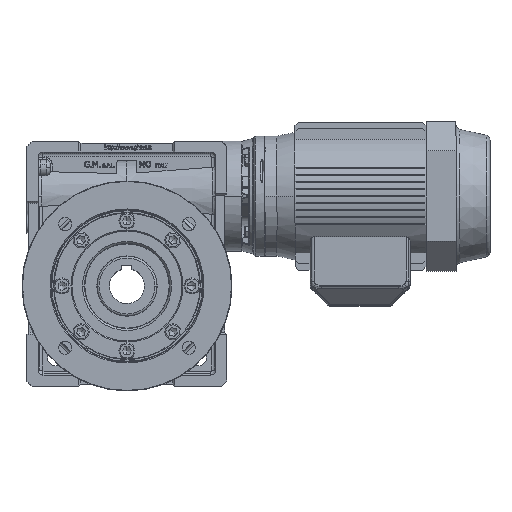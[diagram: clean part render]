
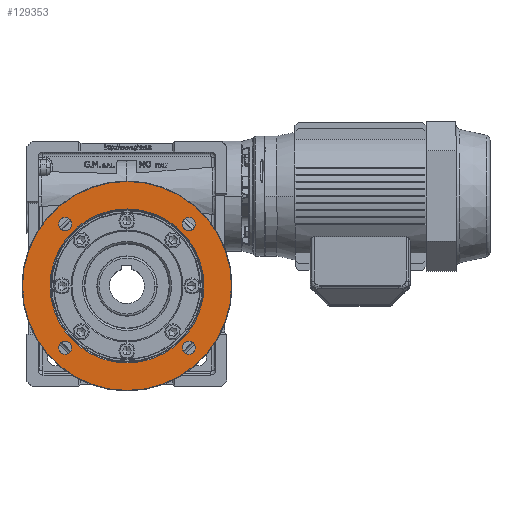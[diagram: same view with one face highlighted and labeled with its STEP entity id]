
A CAD part, top view. The second image highlights one B-rep face of the part: STEP entity #129353.
In plain terms, the highlighted planar face has unit normal (0, 0, 1) as drawn and (0, 0, -1) by its records, which use the part's own axes.
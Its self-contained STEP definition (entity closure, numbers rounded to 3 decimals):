
#128468=CARTESIAN_POINT('',(68.372,-61.872,0.0));
#128469=VERTEX_POINT('',#128468);
#128494=CARTESIAN_POINT('',(55.372,-61.872,0.0));
#128495=VERTEX_POINT('',#128494);
#128502=CARTESIAN_POINT('',(61.872,-61.872,0.0));
#128503=DIRECTION('',(0.0,0.0,1.0));
#128504=DIRECTION('',(1.0,0.0,0.0));
#128505=AXIS2_PLACEMENT_3D('',#128502,#128503,#128504);
#128506=CIRCLE('',#128505,6.5);
#128507=EDGE_CURVE('',#128469,#128495,#128506,.T.);
#128519=CARTESIAN_POINT('',(-61.872,-68.372,0.0));
#128520=VERTEX_POINT('',#128519);
#128545=CARTESIAN_POINT('',(-61.872,-55.372,0.0));
#128546=VERTEX_POINT('',#128545);
#128553=CARTESIAN_POINT('',(-61.872,-61.872,0.0));
#128554=DIRECTION('',(0.0,0.0,1.0));
#128555=DIRECTION('',(0.0,-1.0,0.0));
#128556=AXIS2_PLACEMENT_3D('',#128553,#128554,#128555);
#128557=CIRCLE('',#128556,6.5);
#128558=EDGE_CURVE('',#128520,#128546,#128557,.T.);
#128570=CARTESIAN_POINT('',(61.872,68.372,0.0));
#128571=VERTEX_POINT('',#128570);
#128587=CARTESIAN_POINT('',(61.872,55.372,0.0));
#128588=VERTEX_POINT('',#128587);
#128595=CARTESIAN_POINT('',(61.872,61.872,0.0));
#128596=DIRECTION('',(0.0,0.0,1.0));
#128597=DIRECTION('',(0.0,1.0,0.0));
#128598=AXIS2_PLACEMENT_3D('',#128595,#128596,#128597);
#128599=CIRCLE('',#128598,6.5);
#128600=EDGE_CURVE('',#128571,#128588,#128599,.T.);
#128612=CARTESIAN_POINT('',(-68.372,61.872,0.0));
#128613=VERTEX_POINT('',#128612);
#128638=CARTESIAN_POINT('',(-55.372,61.872,0.0));
#128639=VERTEX_POINT('',#128638);
#128646=CARTESIAN_POINT('',(-61.872,61.872,0.0));
#128647=DIRECTION('',(0.0,0.0,1.0));
#128648=DIRECTION('',(-1.0,0.0,0.0));
#128649=AXIS2_PLACEMENT_3D('',#128646,#128647,#128648);
#128650=CIRCLE('',#128649,6.5);
#128651=EDGE_CURVE('',#128613,#128639,#128650,.T.);
#129173=CARTESIAN_POINT('',(77.0,0.,0.0));
#129174=VERTEX_POINT('',#129173);
#129182=CARTESIAN_POINT('',(-77.0,0.,0.0));
#129183=VERTEX_POINT('',#129182);
#129190=CARTESIAN_POINT('',(0.0,0.0,0.0));
#129191=DIRECTION('',(0.0,0.0,-1.0));
#129192=DIRECTION('',(1.0,0.0,0.0));
#129193=AXIS2_PLACEMENT_3D('',#129190,#129191,#129192);
#129194=CIRCLE('',#129193,77.0);
#129195=EDGE_CURVE('',#129183,#129174,#129194,.T.);
#129243=CARTESIAN_POINT('',(-104.5,0.,0.0));
#129244=VERTEX_POINT('',#129243);
#129258=CARTESIAN_POINT('',(104.5,0.,0.0));
#129259=VERTEX_POINT('',#129258);
#129266=CARTESIAN_POINT('',(0.0,0.0,0.0));
#129267=DIRECTION('',(0.0,0.0,1.0));
#129268=DIRECTION('',(-1.0,0.0,0.0));
#129269=AXIS2_PLACEMENT_3D('',#129266,#129267,#129268);
#129270=CIRCLE('',#129269,104.5);
#129271=EDGE_CURVE('',#129259,#129244,#129270,.T.);
#129282=CARTESIAN_POINT('',(0.0,0.0,0.0));
#129283=DIRECTION('',(0.0,0.0,1.0));
#129284=DIRECTION('',(-1.0,0.0,0.0));
#129285=AXIS2_PLACEMENT_3D('',#129282,#129283,#129284);
#129286=CIRCLE('',#129285,104.5);
#129287=EDGE_CURVE('',#129244,#129259,#129286,.T.);
#129294=CARTESIAN_POINT('',(0.0,0.0,0.0));
#129295=DIRECTION('',(0.0,0.0,-1.0));
#129296=DIRECTION('',(-1.0,0.0,0.0));
#129297=AXIS2_PLACEMENT_3D('',#129294,#129295,#129296);
#129298=PLANE('',#129297);
#129299=ORIENTED_EDGE('',*,*,#129271,.F.);
#129300=ORIENTED_EDGE('',*,*,#129287,.F.);
#129301=EDGE_LOOP('',(#129299,#129300));
#129302=FACE_OUTER_BOUND('',#129301,.T.);
#129303=ORIENTED_EDGE('',*,*,#129195,.F.);
#129304=CARTESIAN_POINT('',(0.0,0.0,0.0));
#129305=DIRECTION('',(0.0,0.0,-1.0));
#129306=DIRECTION('',(1.0,0.0,0.0));
#129307=AXIS2_PLACEMENT_3D('',#129304,#129305,#129306);
#129308=CIRCLE('',#129307,77.0);
#129309=EDGE_CURVE('',#129174,#129183,#129308,.T.);
#129310=ORIENTED_EDGE('',*,*,#129309,.F.);
#129311=EDGE_LOOP('',(#129303,#129310));
#129312=FACE_BOUND('',#129311,.T.);
#129313=CARTESIAN_POINT('',(-61.872,61.872,0.0));
#129314=DIRECTION('',(0.0,0.0,1.0));
#129315=DIRECTION('',(-1.0,0.0,0.0));
#129316=AXIS2_PLACEMENT_3D('',#129313,#129314,#129315);
#129317=CIRCLE('',#129316,6.5);
#129318=EDGE_CURVE('',#128639,#128613,#129317,.T.);
#129319=ORIENTED_EDGE('',*,*,#129318,.T.);
#129320=ORIENTED_EDGE('',*,*,#128651,.T.);
#129321=EDGE_LOOP('',(#129319,#129320));
#129322=FACE_BOUND('',#129321,.T.);
#129323=CARTESIAN_POINT('',(61.872,61.872,0.0));
#129324=DIRECTION('',(0.0,0.0,1.0));
#129325=DIRECTION('',(0.0,1.0,0.0));
#129326=AXIS2_PLACEMENT_3D('',#129323,#129324,#129325);
#129327=CIRCLE('',#129326,6.5);
#129328=EDGE_CURVE('',#128588,#128571,#129327,.T.);
#129329=ORIENTED_EDGE('',*,*,#129328,.T.);
#129330=ORIENTED_EDGE('',*,*,#128600,.T.);
#129331=EDGE_LOOP('',(#129329,#129330));
#129332=FACE_BOUND('',#129331,.T.);
#129333=CARTESIAN_POINT('',(-61.872,-61.872,0.0));
#129334=DIRECTION('',(0.0,0.0,1.0));
#129335=DIRECTION('',(0.0,-1.0,0.0));
#129336=AXIS2_PLACEMENT_3D('',#129333,#129334,#129335);
#129337=CIRCLE('',#129336,6.5);
#129338=EDGE_CURVE('',#128546,#128520,#129337,.T.);
#129339=ORIENTED_EDGE('',*,*,#129338,.T.);
#129340=ORIENTED_EDGE('',*,*,#128558,.T.);
#129341=EDGE_LOOP('',(#129339,#129340));
#129342=FACE_BOUND('',#129341,.T.);
#129343=CARTESIAN_POINT('',(61.872,-61.872,0.0));
#129344=DIRECTION('',(0.0,0.0,1.0));
#129345=DIRECTION('',(1.0,0.0,0.0));
#129346=AXIS2_PLACEMENT_3D('',#129343,#129344,#129345);
#129347=CIRCLE('',#129346,6.5);
#129348=EDGE_CURVE('',#128495,#128469,#129347,.T.);
#129349=ORIENTED_EDGE('',*,*,#129348,.T.);
#129350=ORIENTED_EDGE('',*,*,#128507,.T.);
#129351=EDGE_LOOP('',(#129349,#129350));
#129352=FACE_BOUND('',#129351,.T.);
#129353=ADVANCED_FACE('',(#129302,#129312,#129322,#129332,#129342,#129352),#129298,.T.);
